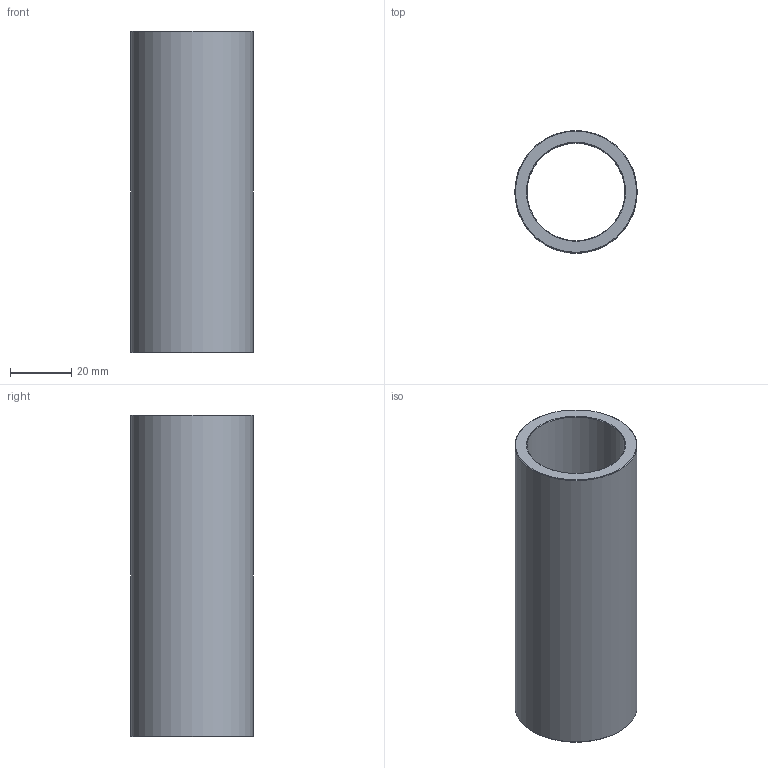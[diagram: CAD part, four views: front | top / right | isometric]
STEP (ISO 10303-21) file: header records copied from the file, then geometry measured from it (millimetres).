
FILE_DESCRIPTION(('STEP AP203'),'1');
FILE_NAME('C:/Users/Rodrigo/Desktop/GA4.032.105-1.step','2016-11-07T17:22:11',(' '),(' '),'Spatial InterOp 3D',' ',' ');
FILE_SCHEMA(('CONFIG_CONTROL_DESIGN'));
Length unit declared in the file: millimetre
Products named in the file (1): 1
Bounding box: 40 x 40 x 105 mm (x, y, z)
Volume: 47491.8 mm3; surface area: 24602.2 mm2
Topology: 1 solids, 1 shells, 8 faces, 14 edges, 8 vertices
Faces by surface type: cone 4, cylinder 2, plane 2
Full cylindrical faces by diameter (mm): 32 x1, 40 x1
Entity records: 212 total; most frequent: DIRECTION 34, CARTESIAN_POINT 25, AXIS2_PLACEMENT_3D 17, EDGE_LOOP 16, ORIENTED_EDGE 16, FACE_OUTER_BOUND 10, ADVANCED_FACE 8, EDGE_CURVE 8
